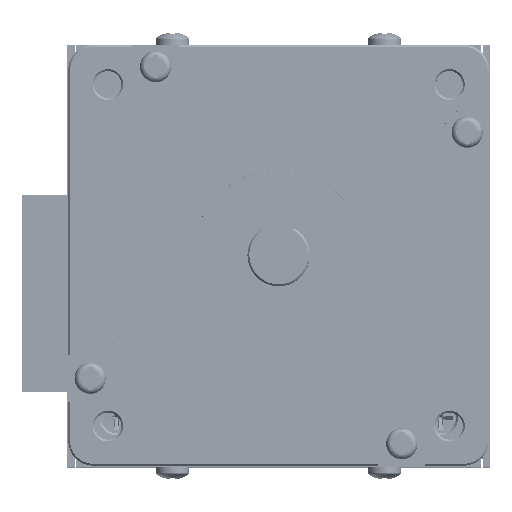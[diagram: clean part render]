
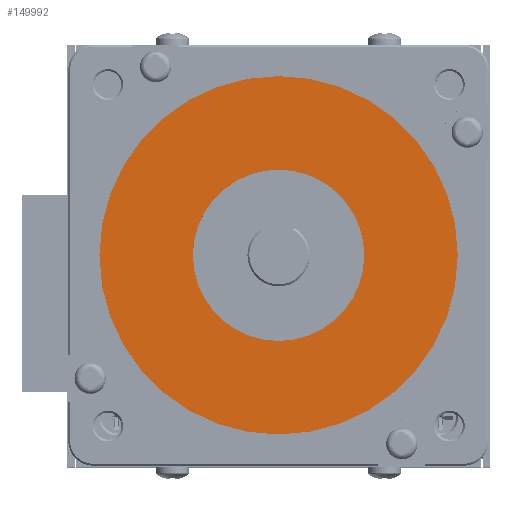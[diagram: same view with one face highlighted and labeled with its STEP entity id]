
A CAD part, top view. The second image highlights one B-rep face of the part: STEP entity #149992.
In plain terms, the highlighted planar face has unit normal (0, 0, 1).
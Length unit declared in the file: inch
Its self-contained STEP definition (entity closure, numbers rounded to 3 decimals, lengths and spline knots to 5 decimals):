
#6183 = EDGE_CURVE ( 'NONE', #105203, #141871, #133746, .T. ) ;
#6210 = EDGE_CURVE ( 'NONE', #141871, #105203, #94797, .T. ) ;
#15518 = EDGE_LOOP ( 'NONE', ( #72262, #133407 ) ) ;
#18545 = CARTESIAN_POINT ( 'NONE',  ( 0., 0., 0.06 ) ) ;
#21528 = DIRECTION ( 'NONE',  ( 0., 0., 1. ) ) ;
#22479 = EDGE_CURVE ( 'NONE', #64913, #72106, #50579, .T. ) ;
#29970 = DIRECTION ( 'NONE',  ( 0., 0., 1. ) ) ;
#33191 = DIRECTION ( 'NONE',  ( 1., 0., 0. ) ) ;
#35552 = PLANE ( 'NONE',  #84840 ) ;
#42566 = CIRCLE ( 'NONE', #89071, 1.4375 ) ;
#44407 = AXIS2_PLACEMENT_3D ( 'NONE', #117728, #29970, #132446 ) ;
#49212 = DIRECTION ( 'NONE',  ( 0., 0., 1. ) ) ;
#50579 = CIRCLE ( 'NONE', #44407, 1.4375 ) ;
#51057 = FACE_OUTER_BOUND ( 'NONE', #15518, .T. ) ;
#58066 = EDGE_CURVE ( 'NONE', #72106, #64913, #42566, .T. ) ;
#64913 = VERTEX_POINT ( 'NONE', #151952 ) ;
#72106 = VERTEX_POINT ( 'NONE', #167623 ) ;
#72262 = ORIENTED_EDGE ( 'NONE', *, *, #58066, .T. ) ;
#76739 = DIRECTION ( 'NONE',  ( 0., 0., 1. ) ) ;
#84840 = AXIS2_PLACEMENT_3D ( 'NONE', #109197, #21528, #123941 ) ;
#89071 = AXIS2_PLACEMENT_3D ( 'NONE', #136986, #49212, #151697 ) ;
#94797 = CIRCLE ( 'NONE', #151367, 0.6875 ) ;
#105203 = VERTEX_POINT ( 'NONE', #133017 ) ;
#109197 = CARTESIAN_POINT ( 'NONE',  ( 0., 0., 0.06 ) ) ;
#117728 = CARTESIAN_POINT ( 'NONE',  ( 0., 0., 0.06 ) ) ;
#120940 = DIRECTION ( 'NONE',  ( 0., 0., 1. ) ) ;
#123941 = DIRECTION ( 'NONE',  ( 1., 0., 0. ) ) ;
#124394 = FACE_BOUND ( 'NONE', #178178, .T. ) ;
#131777 = AXIS2_PLACEMENT_3D ( 'NONE', #164470, #76739, #179108 ) ;
#132446 = DIRECTION ( 'NONE',  ( 1., 0., 0. ) ) ;
#133017 = CARTESIAN_POINT ( 'NONE',  ( -0.6875, 0., 0.06 ) ) ;
#133407 = ORIENTED_EDGE ( 'NONE', *, *, #22479, .T. ) ;
#133746 = CIRCLE ( 'NONE', #131777, 0.6875 ) ;
#136986 = CARTESIAN_POINT ( 'NONE',  ( 0., 0., 0.06 ) ) ;
#141871 = VERTEX_POINT ( 'NONE', #148991 ) ;
#148991 = CARTESIAN_POINT ( 'NONE',  ( 0.6875, 0., 0.06 ) ) ;
#149992 = ADVANCED_FACE ( 'NONE', ( #51057, #124394 ), #35552, .T. ) ;
#151367 = AXIS2_PLACEMENT_3D ( 'NONE', #18545, #120940, #33191 ) ;
#151697 = DIRECTION ( 'NONE',  ( 1., 0., 0. ) ) ;
#151952 = CARTESIAN_POINT ( 'NONE',  ( 1.4375, 0., 0.06 ) ) ;
#155738 = ORIENTED_EDGE ( 'NONE', *, *, #6183, .F. ) ;
#158289 = ORIENTED_EDGE ( 'NONE', *, *, #6210, .F. ) ;
#164470 = CARTESIAN_POINT ( 'NONE',  ( 0., 0., 0.06 ) ) ;
#167623 = CARTESIAN_POINT ( 'NONE',  ( -1.4375, 0., 0.06 ) ) ;
#178178 = EDGE_LOOP ( 'NONE', ( #155738, #158289 ) ) ;
#179108 = DIRECTION ( 'NONE',  ( 1., 0., 0. ) ) ;
